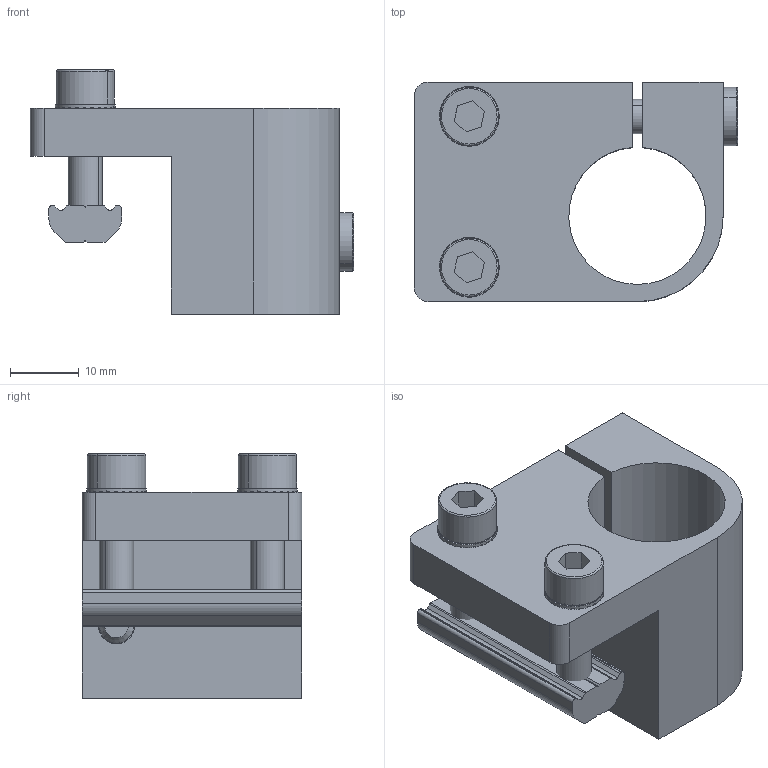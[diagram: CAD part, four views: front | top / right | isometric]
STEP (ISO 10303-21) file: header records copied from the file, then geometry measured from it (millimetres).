
FILE_DESCRIPTION (( 'STEP AP214' ), '1' );
FILE_NAME ('SMBE4-2012.STEP', '2019-11-05T08:40:46', ( '微软用户' ), ( '微软中国' ), 'SwSTEP 2.0', 'SolidWorks 2016', '' );
FILE_SCHEMA (( 'AUTOMOTIVE_DESIGN' ));
Length unit declared in the file: millimetre
Products named in the file (1): SMBE4-2012
Bounding box: 47.1 x 32 x 35.6 mm (x, y, z)
Volume: 19573.4 mm3; surface area: 11737.4 mm2
Topology: 8 solids, 8 shells, 720 faces, 2093 edges, 1385 vertices
Faces by surface type: plane 648, cylinder 60, cone 6, bspline 6
Entity records: 32397 total; most frequent: CARTESIAN_POINT 4796, ORIENTED_EDGE 4186, DIRECTION 4154, EDGE_CURVE 2093, AXIS2_PLACEMENT_3D 1390, VERTEX_POINT 1385, LINE 1374, VECTOR 1374
